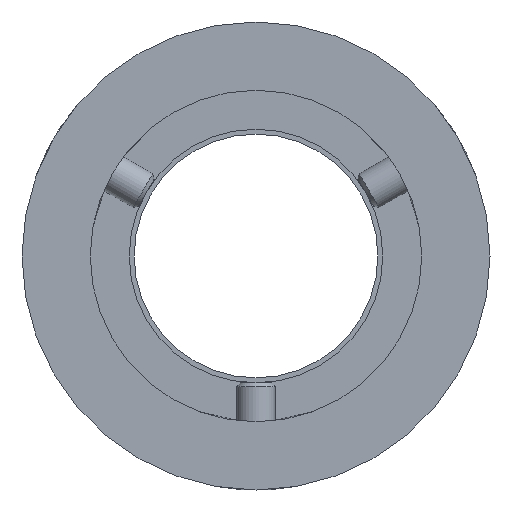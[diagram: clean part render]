
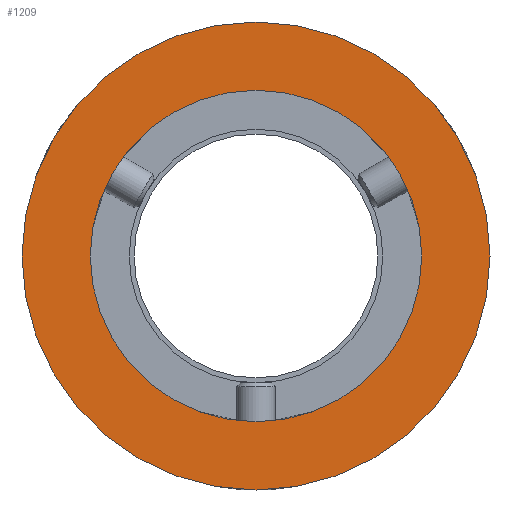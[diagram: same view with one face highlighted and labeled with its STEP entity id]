
A CAD part, front view. The second image highlights one B-rep face of the part: STEP entity #1209.
In plain terms, the highlighted planar face has unit normal (0, -1, 0).
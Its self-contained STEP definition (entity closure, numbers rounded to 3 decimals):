
#220 = DIRECTION ( 'NONE',  ( 0., 0., -1. ) ) ;
#233 = EDGE_CURVE ( 'NONE', #862, #2921, #669, .T. ) ;
#284 = CARTESIAN_POINT ( 'NONE',  ( 0., 0., 17. ) ) ;
#430 = VERTEX_POINT ( 'NONE', #2512 ) ;
#509 = VERTEX_POINT ( 'NONE', #3014 ) ;
#582 = CARTESIAN_POINT ( 'NONE',  ( 0., 0., 0. ) ) ;
#641 = CARTESIAN_POINT ( 'NONE',  ( 12.5, 0., 0. ) ) ;
#650 = CIRCLE ( 'NONE', #2765, 17. ) ;
#663 = DIRECTION ( 'NONE',  ( 0., 0., -1. ) ) ;
#669 = CIRCLE ( 'NONE', #2587, 17. ) ;
#861 = EDGE_LOOP ( 'NONE', ( #1468, #2906 ) ) ;
#862 = VERTEX_POINT ( 'NONE', #284 ) ;
#907 = ORIENTED_EDGE ( 'NONE', *, *, #2416, .F. ) ;
#926 = AXIS2_PLACEMENT_3D ( 'NONE', #2593, #3280, #3508 ) ;
#1064 = EDGE_CURVE ( 'NONE', #430, #509, #2821, .T. ) ;
#1209 = ADVANCED_FACE ( 'NONE', ( #2836, #3444 ), #3411, .T. ) ;
#1468 = ORIENTED_EDGE ( 'NONE', *, *, #2102, .T. ) ;
#1645 = DIRECTION ( 'NONE',  ( 0., -1., 0. ) ) ;
#1805 = DIRECTION ( 'NONE',  ( 0., -1., 0. ) ) ;
#1837 = ORIENTED_EDGE ( 'NONE', *, *, #233, .F. ) ;
#1895 = CARTESIAN_POINT ( 'NONE',  ( 0., 0., 0. ) ) ;
#1959 = DIRECTION ( 'NONE',  ( 0., 0., -1. ) ) ;
#2102 = EDGE_CURVE ( 'NONE', #509, #430, #2493, .T. ) ;
#2132 = CARTESIAN_POINT ( 'NONE',  ( 0., 0., -17. ) ) ;
#2142 = DIRECTION ( 'NONE',  ( 0., -1., 0. ) ) ;
#2175 = AXIS2_PLACEMENT_3D ( 'NONE', #1895, #1645, #1959 ) ;
#2416 = EDGE_CURVE ( 'NONE', #2921, #862, #650, .T. ) ;
#2493 = CIRCLE ( 'NONE', #2175, 24. ) ;
#2512 = CARTESIAN_POINT ( 'NONE',  ( 0., 0., 24. ) ) ;
#2587 = AXIS2_PLACEMENT_3D ( 'NONE', #3618, #1805, #220 ) ;
#2593 = CARTESIAN_POINT ( 'NONE',  ( 0., 0., 0. ) ) ;
#2765 = AXIS2_PLACEMENT_3D ( 'NONE', #582, #2142, #3620 ) ;
#2814 = DIRECTION ( 'NONE',  ( 0., -1., 0. ) ) ;
#2821 = CIRCLE ( 'NONE', #926, 24. ) ;
#2836 = FACE_BOUND ( 'NONE', #3328, .T. ) ;
#2906 = ORIENTED_EDGE ( 'NONE', *, *, #1064, .T. ) ;
#2921 = VERTEX_POINT ( 'NONE', #2132 ) ;
#2955 = AXIS2_PLACEMENT_3D ( 'NONE', #641, #2814, #663 ) ;
#3014 = CARTESIAN_POINT ( 'NONE',  ( 0., 0., -24. ) ) ;
#3280 = DIRECTION ( 'NONE',  ( 0., -1., 0. ) ) ;
#3328 = EDGE_LOOP ( 'NONE', ( #907, #1837 ) ) ;
#3411 = PLANE ( 'NONE',  #2955 ) ;
#3444 = FACE_OUTER_BOUND ( 'NONE', #861, .T. ) ;
#3508 = DIRECTION ( 'NONE',  ( 0., 0., -1. ) ) ;
#3618 = CARTESIAN_POINT ( 'NONE',  ( 0., 0., 0. ) ) ;
#3620 = DIRECTION ( 'NONE',  ( 0., 0., -1. ) ) ;
